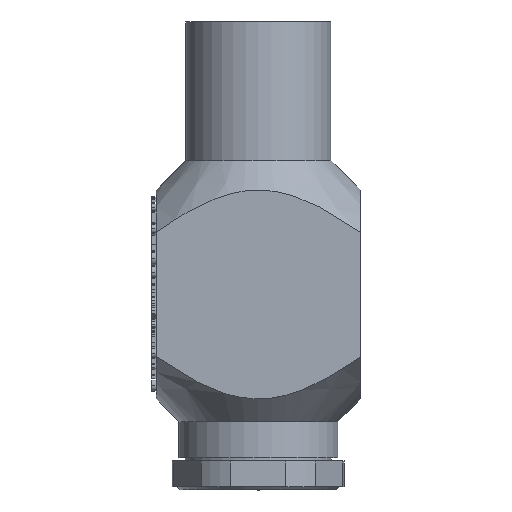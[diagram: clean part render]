
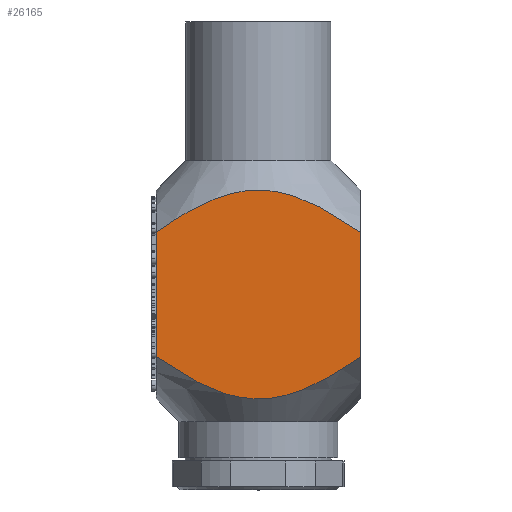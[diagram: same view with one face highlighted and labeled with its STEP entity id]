
A CAD part, left-side view. The second image highlights one B-rep face of the part: STEP entity #26165.
In plain terms, the highlighted planar face has unit normal (-1, 0, 0).
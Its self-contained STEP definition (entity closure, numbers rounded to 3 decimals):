
#1616=(
BOUNDED_CURVE()
B_SPLINE_CURVE(2,(#46826,#46827,#46828),.UNSPECIFIED.,.F.,.F.)
B_SPLINE_CURVE_WITH_KNOTS((3,3),(0.285,5.486),
 .UNSPECIFIED.)
CURVE()
GEOMETRIC_REPRESENTATION_ITEM()
RATIONAL_B_SPLINE_CURVE((1.05,1.485,1.05))
REPRESENTATION_ITEM('')
);
#1618=(
BOUNDED_CURVE()
B_SPLINE_CURVE(2,(#46842,#46843,#46844),.UNSPECIFIED.,.F.,.F.)
B_SPLINE_CURVE_WITH_KNOTS((3,3),(0.352,5.634),
 .UNSPECIFIED.)
CURVE()
GEOMETRIC_REPRESENTATION_ITEM()
RATIONAL_B_SPLINE_CURVE((1.063,1.503,1.063))
REPRESENTATION_ITEM('')
);
#1634=LINE('',#31749,#4232);
#4151=LINE('',#46845,#6749);
#4232=VECTOR('',#27238,27.36);
#6749=VECTOR('',#31345,27.36);
#7651=PLANE('',#27060);
#9175=FACE_OUTER_BOUND('',#10708,.T.);
#10708=EDGE_LOOP('',(#24376,#24377,#24378,#24379));
#10904=VERTEX_POINT('',#31744);
#10905=VERTEX_POINT('',#31748);
#13305=VERTEX_POINT('',#46821);
#13310=VERTEX_POINT('',#46841);
#13426=EDGE_CURVE('',#10905,#10904,#1634,.T.);
#17016=EDGE_CURVE('',#10904,#13305,#1616,.T.);
#17021=EDGE_CURVE('',#13310,#10905,#1618,.T.);
#17022=EDGE_CURVE('',#13310,#13305,#4151,.T.);
#24376=ORIENTED_EDGE('',*,*,#17021,.T.);
#24377=ORIENTED_EDGE('',*,*,#13426,.T.);
#24378=ORIENTED_EDGE('',*,*,#17016,.T.);
#24379=ORIENTED_EDGE('',*,*,#17022,.F.);
#26165=ADVANCED_FACE('',(#9175),#7651,.T.);
#27060=AXIS2_PLACEMENT_3D('',#46840,#31343,#31344);
#27238=DIRECTION('',(0.,0.,-1.));
#31343=DIRECTION('center_axis',(-1.,0.,0.));
#31344=DIRECTION('ref_axis',(0.,0.,1.));
#31345=DIRECTION('',(0.,0.,-1.));
#31744=CARTESIAN_POINT('',(-22.5,22.5,-60.68));
#31748=CARTESIAN_POINT('',(-22.5,22.5,-33.32));
#31749=CARTESIAN_POINT('',(-22.5,22.5,-7.));
#46821=CARTESIAN_POINT('',(-22.5,-22.5,-60.68));
#46826=CARTESIAN_POINT('Ctrl Pts',(-22.5,22.5,-60.68));
#46827=CARTESIAN_POINT('Ctrl Pts',(-22.5,0.,-76.59));
#46828=CARTESIAN_POINT('Ctrl Pts',(-22.5,-22.5,-60.68));
#46840=CARTESIAN_POINT('Origin',(-22.5,-11.5,-7.));
#46841=CARTESIAN_POINT('',(-22.5,-22.5,-33.32));
#46842=CARTESIAN_POINT('Ctrl Pts',(-22.5,-22.5,-33.32));
#46843=CARTESIAN_POINT('Ctrl Pts',(-22.5,0.,-17.41));
#46844=CARTESIAN_POINT('Ctrl Pts',(-22.5,22.5,-33.32));
#46845=CARTESIAN_POINT('',(-22.5,-22.5,-7.));
